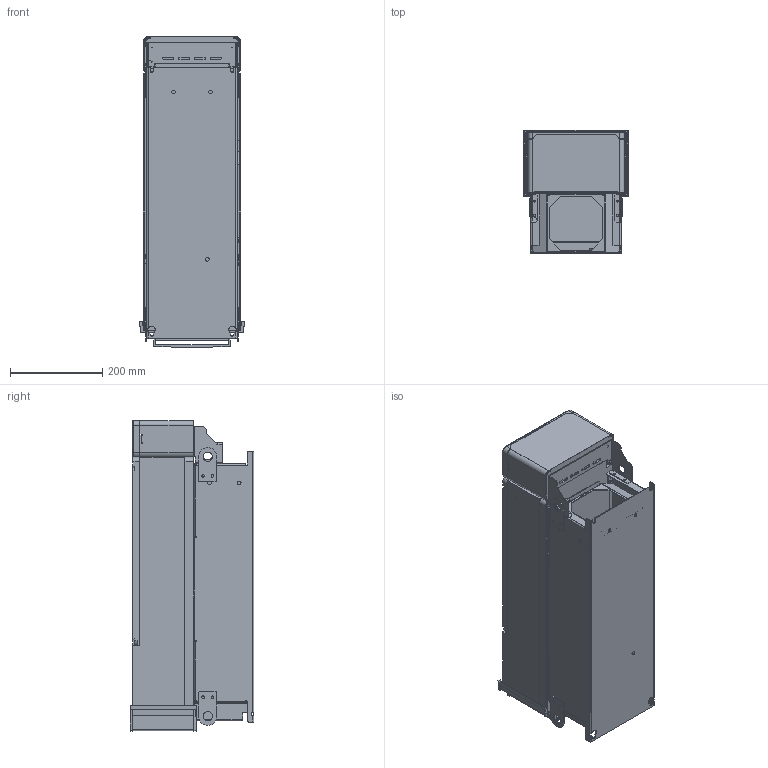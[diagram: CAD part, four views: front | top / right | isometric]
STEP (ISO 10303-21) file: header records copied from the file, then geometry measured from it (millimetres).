
FILE_DESCRIPTION(('STEP AP242'),'1');
FILE_NAME('atv610d30n4.stp','2020-03-21T03:59:01',('TraceParts'),('TraceParts S.A.'),'Spatial InterOp 3D',' ',' ');
FILE_SCHEMA(('AP242_MANAGED_MODEL_BASED_3D_ENGINEERING_MIM_LF {1 0 10303 442 1 1 4}'));
Length unit declared in the file: millimetre
Products named in the file (1): atv610d30n4_1
Bounding box: 226.01 x 268 x 671.81 mm (x, y, z)
Volume: 2846209 mm3; surface area: 2325306.5 mm2
Topology: 30 solids, 30 shells, 3353 faces, 9166 edges, 5872 vertices
Faces by surface type: plane 2216, cylinder 760, cone 136, torus 94, sphere 88, bspline 51, extrusion 8
Entity records: 108297 total; most frequent: CARTESIAN_POINT 21906, ORIENTED_EDGE 18332, DIRECTION 17489, EDGE_CURVE 9166, VECTOR 6923, LINE 6915, VERTEX_POINT 5872, AXIS2_PLACEMENT_3D 5283
